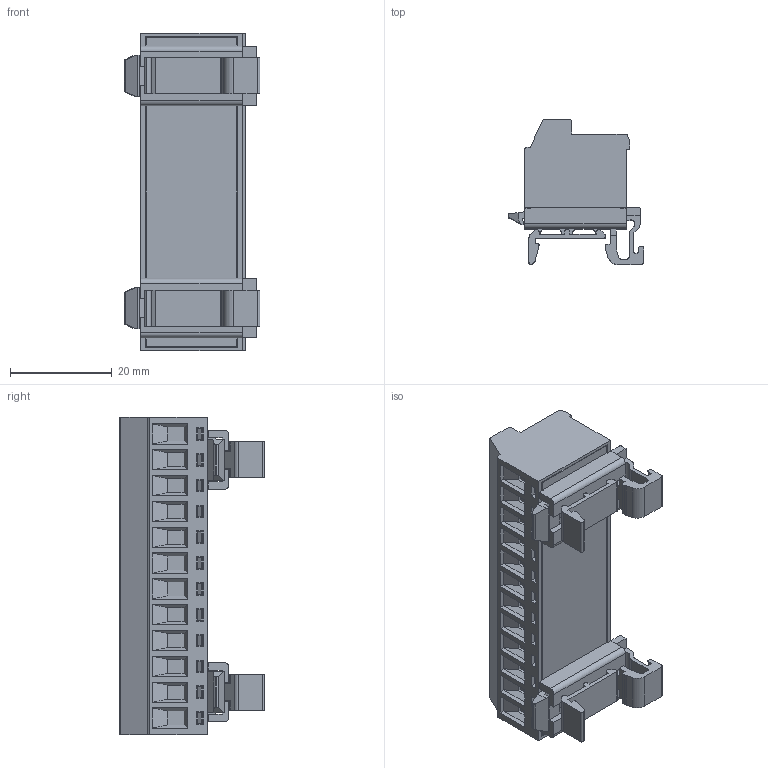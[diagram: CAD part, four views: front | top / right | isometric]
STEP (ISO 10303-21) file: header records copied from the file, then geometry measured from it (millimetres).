
FILE_DESCRIPTION(('STEP AP203'), '1');
FILE_NAME('WJ2EDGVK-5.08-12P', '', ('UNSPECIFIED'), ('UNSPECIFIED'), 'C3D Converter', 'C3D Toolkit', '');
FILE_SCHEMA(('CONFIG_CONTROL_DESIGN'));
Length unit declared in the file: millimetre
Products named in the file (2): KLR2GVK-5.08-12P
Assembly tree (1 placements, depth 2):
  KLR2GVK-5.08-12P
    KLR2GVK-5.08-12P
Bounding box: 26.7 x 28.5 x 62.48 mm (x, y, z)
Volume: 16062 mm3; surface area: 16907.7 mm2
Topology: 1 solids, 13 shells, 2077 faces, 5750 edges, 3709 vertices
Faces by surface type: plane 1553, cylinder 356, torus 96, cone 48, bspline 24
Full cylindrical faces by diameter (mm): 3.8 x12, 3.9 x12, 4.05 x23
Entity records: 93639 total; most frequent: CARTESIAN_POINT 24498, ORIENTED_EDGE 11286, DIRECTION 10129, EDGE_CURVE 5643, LINE 4551, VECTOR 4551, VERTEX_POINT 3709, AXIS2_PLACEMENT_3D 2789
